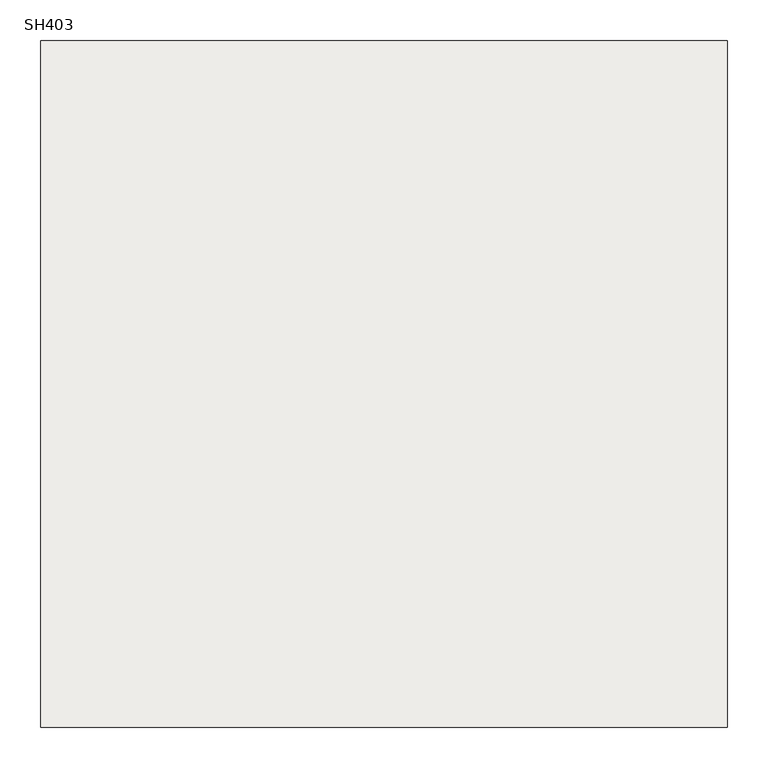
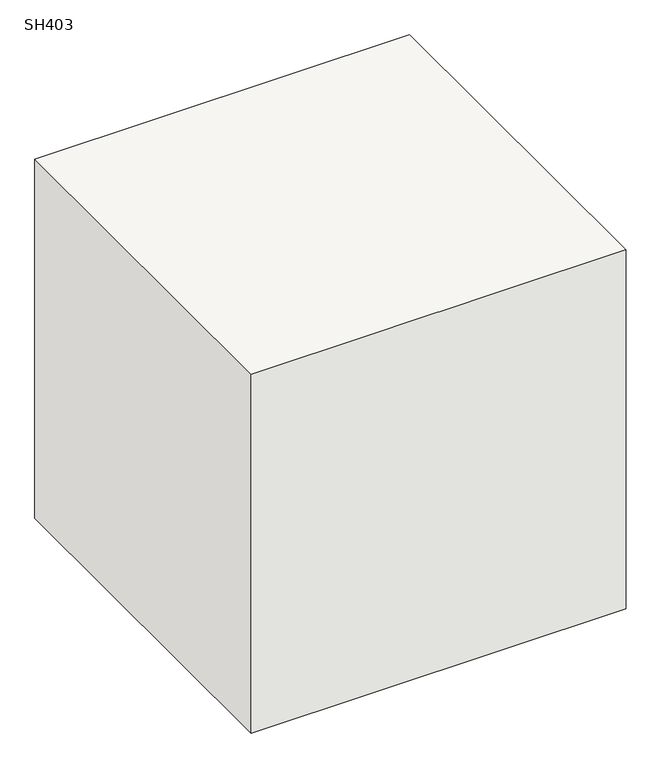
"""IFC4 building model written with IfcOpenShell, lengths in millimetres: slab geometry, 柱形_SH : SH403."""

from ifc_helpers import new_model, si_unit, frame, origin, place, context, project, spatial, polyline, outline, extrude, source, transform, mapped, element, save


def sh403_8080ce22(model_context):
    return source(origin(), model_context, "Body", "SweptSolid", [
        extrude(outline(polyline([(420.0, 420.0), (420.0, -420.0), (-420.0, -420.0), (-420.0, 420.0), (420.0, 420.0)])), frame((0.0, 0.0, -850.0), z_axis=(0.0, 0.0, 1.0), x_axis=(1.0, 0.0, 0.0)), (0.0, 0.0, 1.0), 850.0),
    ])


if __name__ == "__main__":
    model = new_model("IFC4")
    model_context = context("Model", 3, world=origin())
    ifc_project = project(units=[si_unit("LENGTHUNIT", "METRE", prefix="MILLI")], contexts=[model_context])
    site = spatial("IfcSite", under=ifc_project)
    building = spatial("IfcBuilding", under=site)
    placement = place(None, origin())
    sh403_shape = sh403_8080ce22(model_context)
    element("IfcSlab", 1, ObjectType="柱形_SH : SH403", at=placement, inside=building, context=model_context, shape_type="MappedRepresentation", body=[
        mapped(sh403_shape, transform((0.0, 0.0, 0.0), x_axis=(1.0, 0.0, 0.0), y_axis=(0.0, 1.0, 0.0), z_axis=(0.0, 0.0, 1.0))),
    ])
    save(model, "model.ifc")
